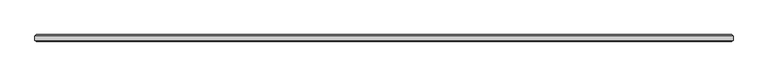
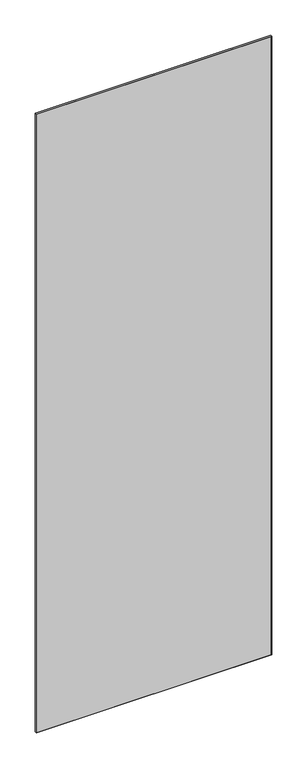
"""IFC4 building model written with IfcOpenShell, lengths in millimetres: plate geometry, 11-AMG-1-Панель одинарный витраж 10-12 : Центр Толщина 10mm."""

from ifc_helpers import new_model, si_unit, origin, place, context, project, spatial, faceted_brep, source, transform, mapped, element, save


def plate_0dbf4a9d(model_context):
    return source(origin(), model_context, "Body", "Brep", [
        faceted_brep([(498.9956302, -3.4961653, 2777.0), (498.9956302, 3.4961653, 2777.0), (-498.9956302, 3.4961653, 2777.0), (-498.9956302, -3.4961653, 2777.0), (498.9956302, 3.4961653, 5.0), (498.9956302, -3.4961653, 5.0), (-498.9956302, -3.4961653, 5.0), (-498.9956302, 3.4961653, 5.0), (-497.4917955, 5.0, 2775.4961653), (497.4917955, 5.0, 2775.4961653), (497.4917955, 5.0, 6.4960578), (-497.4917955, 5.0, 6.4960578), (497.4917955, -5.0, 2775.4961653), (-497.4917955, -5.0, 2775.4961653), (-497.4917955, -5.0, 6.5038347), (497.4917955, -5.0, 6.5038347)], [[[0, 1, 2, 3]], [[4, 5, 6, 7]], [[8, 9, 10, 11]], [[3, 2, 7, 6]], [[12, 13, 14, 15]], [[1, 0, 5, 4]], [[1, 4, 10, 9]], [[5, 0, 12, 15]], [[7, 2, 8, 11]], [[3, 6, 14, 13]], [[0, 3, 13, 12]], [[2, 1, 9, 8]], [[6, 5, 15, 14]], [[4, 7, 11, 10]]]),
    ])


if __name__ == "__main__":
    model = new_model("IFC4")
    model_context = context("Model", 3, world=origin())
    ifc_project = project(units=[si_unit("LENGTHUNIT", "METRE", prefix="MILLI")], contexts=[model_context])
    site = spatial("IfcSite", under=ifc_project)
    building = spatial("IfcBuilding", under=site)
    placement = place(None, origin())
    plate_shape = plate_0dbf4a9d(model_context)
    element("IfcPlate", 1, ObjectType="11-AMG-1-Панель одинарный витраж 10-12 : Центр Толщина 10mm", at=placement, inside=building, context=model_context, shape_type="MappedRepresentation", body=[
        mapped(plate_shape, transform((0.0, 0.0, 0.0), x_axis=(1.0, 0.0, 0.0), y_axis=(0.0, 1.0, 0.0), z_axis=(0.0, 0.0, 1.0))),
    ])
    save(model, "model.ifc")
